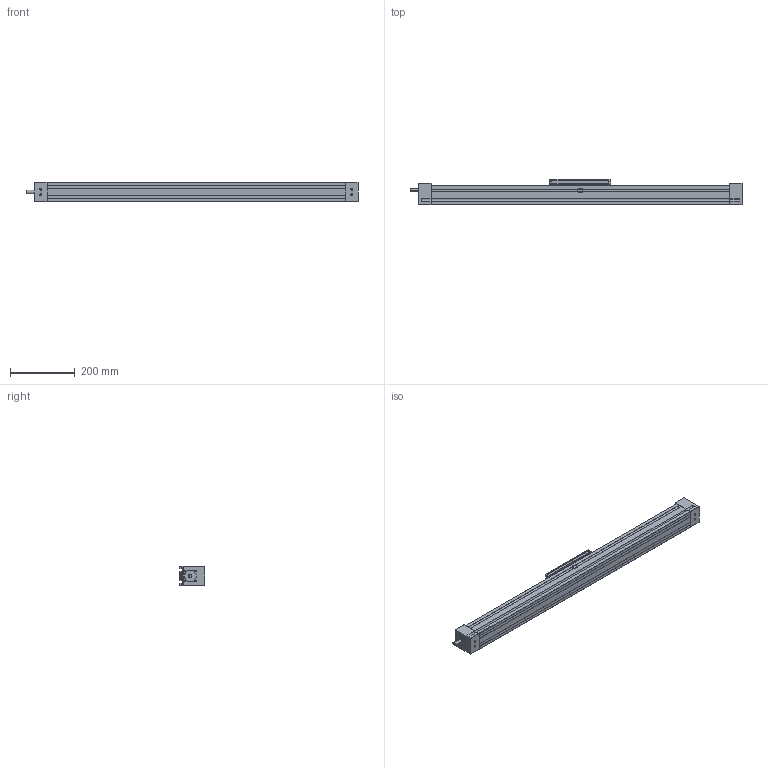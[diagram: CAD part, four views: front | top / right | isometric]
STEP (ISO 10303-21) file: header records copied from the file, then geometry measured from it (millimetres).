
FILE_DESCRIPTION (( 'STEP AP214' ), '1' );
FILE_NAME ('QSTK-60.STEP', '2016-01-14T11:21:36', ( 'admin' ), ( '' ), 'SwSTEP 2.0', 'SolidWorks 2015', '' );
FILE_SCHEMA (( 'AUTOMOTIVE_DESIGN' ));
Length unit declared in the file: millimetre
Products named in the file (5): Kopie von Bahr-QST-QSK-QST-60   1  0 0  0 0  0 0  770_End Block QST (2)^QST(K)60 S0 A0_QSTK 60-0; Kopie von Bahr-QST-QSK-QST-60   1  0 0  0 0  0 0  770_60 Extrusion^QST(K)60 S0 A0; Kopie von Bahr-QST-QSK-QST-60   1  0 0  0 0  0 0  770_60 Carriage^QST(K)60 S0 A0_0; QSTK-60; Kopie von Bahr-QST-QSK-QST-60   1  0 0  0 0  0 0  770_End Block QST (1)^QST(K)60 S0 A0_QSTK 60-1
Assembly tree (4 placements, depth 2):
  QSTK-60
    Kopie von Bahr-QST-QSK-QST-60   1  0 0  0 0  0 0  770_End Block QST (1)^QST(K)60 S0 A0_QSTK 60-1
    Kopie von Bahr-QST-QSK-QST-60   1  0 0  0 0  0 0  770_End Block QST (2)^QST(K)60 S0 A0_QSTK 60-0
    Kopie von Bahr-QST-QSK-QST-60   1  0 0  0 0  0 0  770_60 Extrusion^QST(K)60 S0 A0
    Kopie von Bahr-QST-QSK-QST-60   1  0 0  0 0  0 0  770_60 Carriage^QST(K)60 S0 A0_0
Bounding box: 1027 x 79 x 60.2 mm (x, y, z)
Volume: 3546487.7 mm3; surface area: 376060.8 mm2
Topology: 8 solids, 8 shells, 298 faces, 745 edges, 490 vertices
Faces by surface type: plane 184, cylinder 104, torus 8, cone 2
Entity records: 9348 total; most frequent: CARTESIAN_POINT 1591, DIRECTION 1568, ORIENTED_EDGE 1490, EDGE_CURVE 745, VECTOR 526, LINE 526, AXIS2_PLACEMENT_3D 521, VERTEX_POINT 490
